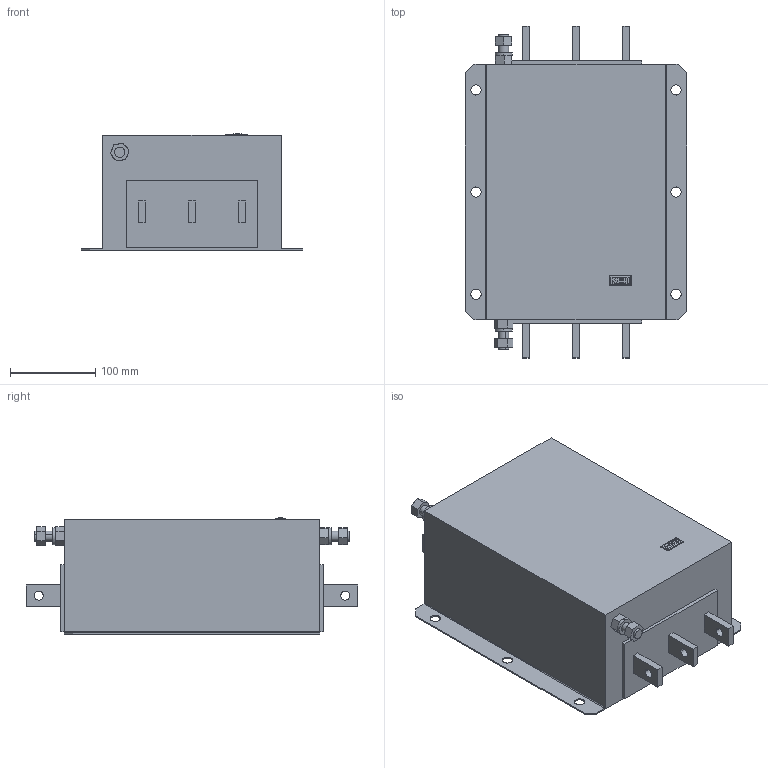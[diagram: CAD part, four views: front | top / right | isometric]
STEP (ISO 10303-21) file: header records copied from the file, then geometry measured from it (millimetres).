
FILE_DESCRIPTION (( 'STEP AP214' ), '1' );
FILE_NAME ('00E4X04-0030.STEP', '2023-07-11T08:32:48', ( '' ), ( '' ), 'SwSTEP 2.0', 'SolidWorks 2022', '' );
FILE_SCHEMA (( 'AUTOMOTIVE_DESIGN' ));
Length unit declared in the file: millimetre
Products named in the file (1): 00E4X04-0030
Bounding box: 260 x 390 x 136.52 mm (x, y, z)
Volume: 8692233.8 mm3; surface area: 317659.4 mm2
Topology: 1 solids, 1 shells, 208 faces, 523 edges, 338 vertices
Faces by surface type: plane 145, cylinder 50, bspline 13
Entity records: 7144 total; most frequent: CARTESIAN_POINT 1963, ORIENTED_EDGE 1046, DIRECTION 939, EDGE_CURVE 523, VERTEX_POINT 338, VECTOR 319, LINE 319, AXIS2_PLACEMENT_3D 310
